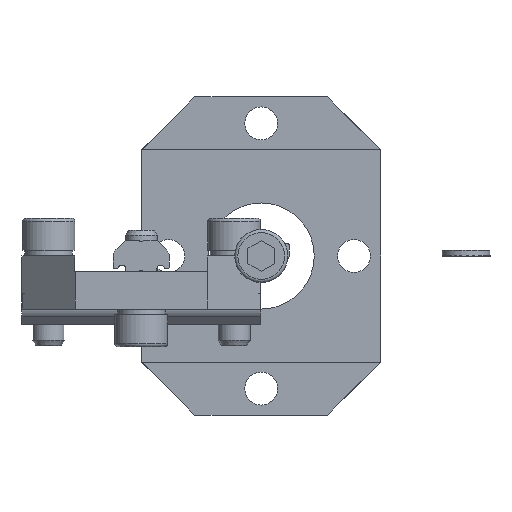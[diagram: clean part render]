
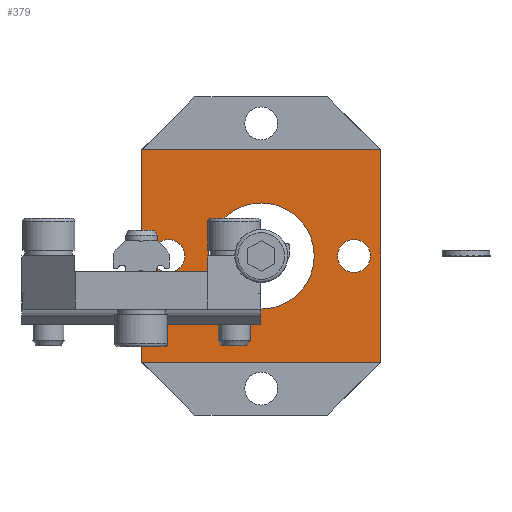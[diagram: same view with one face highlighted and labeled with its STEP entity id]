
A CAD part, left-side view. The second image highlights one B-rep face of the part: STEP entity #379.
In plain terms, the highlighted planar face has unit normal (-1, 0, 0).
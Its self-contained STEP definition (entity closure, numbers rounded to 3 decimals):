
#379 = ADVANCED_FACE( '', ( #922, #923, #924, #925 ), #926, .T. );
#922 = FACE_BOUND( '', #1646, .T. );
#923 = FACE_BOUND( '', #1647, .T. );
#924 = FACE_BOUND( '', #1648, .T. );
#925 = FACE_OUTER_BOUND( '', #1649, .T. );
#926 = PLANE( '', #1650 );
#1646 = EDGE_LOOP( '', ( #2888 ) );
#1647 = EDGE_LOOP( '', ( #2889 ) );
#1648 = EDGE_LOOP( '', ( #2890 ) );
#1649 = EDGE_LOOP( '', ( #2891, #2892, #2893, #2894, #2895, #2896, #2897, #2898 ) );
#1650 = AXIS2_PLACEMENT_3D( '', #2899, #2900, #2901 );
#2888 = ORIENTED_EDGE( '', *, *, #4967, .F. );
#2889 = ORIENTED_EDGE( '', *, *, #5035, .F. );
#2890 = ORIENTED_EDGE( '', *, *, #5036, .F. );
#2891 = ORIENTED_EDGE( '', *, *, #5037, .T. );
#2892 = ORIENTED_EDGE( '', *, *, #5038, .T. );
#2893 = ORIENTED_EDGE( '', *, *, #5017, .T. );
#2894 = ORIENTED_EDGE( '', *, *, #5039, .T. );
#2895 = ORIENTED_EDGE( '', *, *, #5040, .F. );
#2896 = ORIENTED_EDGE( '', *, *, #5041, .T. );
#2897 = ORIENTED_EDGE( '', *, *, #4953, .F. );
#2898 = ORIENTED_EDGE( '', *, *, #5042, .T. );
#2899 = CARTESIAN_POINT( '', ( -7., 25.5, 20.05 ) );
#2900 = DIRECTION( '', ( -1., 0., 0. ) );
#2901 = DIRECTION( '', ( 0., 0., 1. ) );
#4953 = EDGE_CURVE( '', #6265, #6266, #6267, .T. );
#4967 = EDGE_CURVE( '', #6288, #6288, #6289, .T. );
#5017 = EDGE_CURVE( '', #6366, #6367, #6368, .T. );
#5035 = EDGE_CURVE( '', #6393, #6393, #6394, .T. );
#5036 = EDGE_CURVE( '', #6395, #6395, #6396, .T. );
#5037 = EDGE_CURVE( '', #6397, #6398, #6399, .T. );
#5038 = EDGE_CURVE( '', #6398, #6366, #6400, .F. );
#5039 = EDGE_CURVE( '', #6367, #6401, #6402, .F. );
#5040 = EDGE_CURVE( '', #6403, #6401, #6404, .T. );
#5041 = EDGE_CURVE( '', #6403, #6266, #6405, .F. );
#5042 = EDGE_CURVE( '', #6265, #6397, #6406, .F. );
#6265 = VERTEX_POINT( '', #8405 );
#6266 = VERTEX_POINT( '', #8406 );
#6267 = LINE( '', #8407, #8408 );
#6288 = VERTEX_POINT( '', #8437 );
#6289 = CIRCLE( '', #8438, 10. );
#6366 = VERTEX_POINT( '', #8576 );
#6367 = VERTEX_POINT( '', #8577 );
#6368 = LINE( '', #8578, #8579 );
#6393 = VERTEX_POINT( '', #8616 );
#6394 = CIRCLE( '', #8617, 3.1 );
#6395 = VERTEX_POINT( '', #8618 );
#6396 = CIRCLE( '', #8619, 3.1 );
#6397 = VERTEX_POINT( '', #8620 );
#6398 = VERTEX_POINT( '', #8621 );
#6399 = LINE( '', #8622, #8623 );
#6400 = LINE( '', #8624, #8625 );
#6401 = VERTEX_POINT( '', #8626 );
#6402 = LINE( '', #8627, #8628 );
#6403 = VERTEX_POINT( '', #8629 );
#6404 = LINE( '', #8630, #8631 );
#6405 = LINE( '', #8632, #8633 );
#6406 = LINE( '', #8634, #8635 );
#8405 = CARTESIAN_POINT( '', ( -7., 22.45, 20.05 ) );
#8406 = CARTESIAN_POINT( '', ( -7., -22.45, 20.05 ) );
#8407 = CARTESIAN_POINT( '', ( -7., 25.5, 20.05 ) );
#8408 = VECTOR( '', #10291, 1000. );
#8437 = CARTESIAN_POINT( '', ( -7., -10., 0. ) );
#8438 = AXIS2_PLACEMENT_3D( '', #10306, #10307, #10308 );
#8576 = CARTESIAN_POINT( '', ( -7., 22.45, -20.05 ) );
#8577 = CARTESIAN_POINT( '', ( -7., -22.45, -20.05 ) );
#8578 = CARTESIAN_POINT( '', ( -7., 25.5, -20.05 ) );
#8579 = VECTOR( '', #10358, 1000. );
#8616 = CARTESIAN_POINT( '', ( -7., -17.5, 3.1 ) );
#8617 = AXIS2_PLACEMENT_3D( '', #10371, #10372, #10373 );
#8618 = CARTESIAN_POINT( '', ( -7., 17.5, 3.1 ) );
#8619 = AXIS2_PLACEMENT_3D( '', #10374, #10375, #10376 );
#8620 = CARTESIAN_POINT( '', ( -7., 22.5, 20. ) );
#8621 = CARTESIAN_POINT( '', ( -7., 22.5, -20. ) );
#8622 = CARTESIAN_POINT( '', ( -7., 22.5, 30. ) );
#8623 = VECTOR( '', #10377, 1000. );
#8624 = CARTESIAN_POINT( '', ( -7., 44.025, 1.525 ) );
#8625 = VECTOR( '', #10378, 1000. );
#8626 = CARTESIAN_POINT( '', ( -7., -22.5, -20. ) );
#8627 = CARTESIAN_POINT( '', ( -7., -18.525, -23.975 ) );
#8628 = VECTOR( '', #10379, 1000. );
#8629 = CARTESIAN_POINT( '', ( -7., -22.5, 20. ) );
#8630 = CARTESIAN_POINT( '', ( -7., -22.5, 20.05 ) );
#8631 = VECTOR( '', #10380, 1000. );
#8632 = CARTESIAN_POINT( '', ( -7., 1.525, 44.025 ) );
#8633 = VECTOR( '', #10381, 1000. );
#8634 = CARTESIAN_POINT( '', ( -7., 23.975, 18.525 ) );
#8635 = VECTOR( '', #10382, 1000. );
#10291 = DIRECTION( '', ( 0., -1., 0. ) );
#10306 = CARTESIAN_POINT( '', ( -7., 0., 0. ) );
#10307 = DIRECTION( '', ( -1., 0., 0. ) );
#10308 = DIRECTION( '', ( 0., -1., 0. ) );
#10358 = DIRECTION( '', ( 0., -1., 0. ) );
#10371 = CARTESIAN_POINT( '', ( -7., -17.5, 0. ) );
#10372 = DIRECTION( '', ( -1., 0., 0. ) );
#10373 = DIRECTION( '', ( 0., 0., 1. ) );
#10374 = CARTESIAN_POINT( '', ( -7., 17.5, 0. ) );
#10375 = DIRECTION( '', ( -1., 0., 0. ) );
#10376 = DIRECTION( '', ( 0., 0., 1. ) );
#10377 = DIRECTION( '', ( 0., 0., -1. ) );
#10378 = DIRECTION( '', ( 0., 0.707, 0.707 ) );
#10379 = DIRECTION( '', ( 0., 0.707, -0.707 ) );
#10380 = DIRECTION( '', ( 0., 0., -1. ) );
#10381 = DIRECTION( '', ( 0., -0.707, -0.707 ) );
#10382 = DIRECTION( '', ( 0., -0.707, 0.707 ) );
